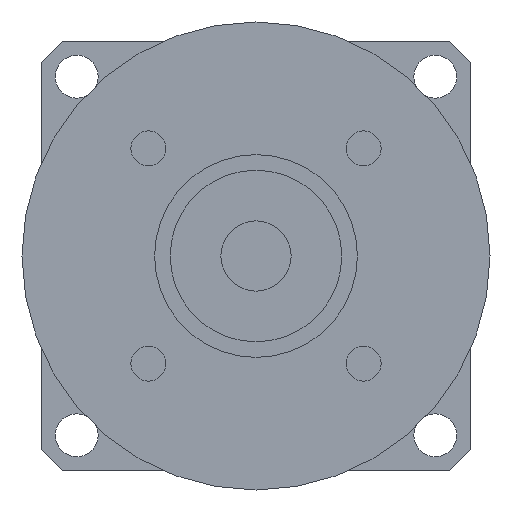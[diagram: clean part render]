
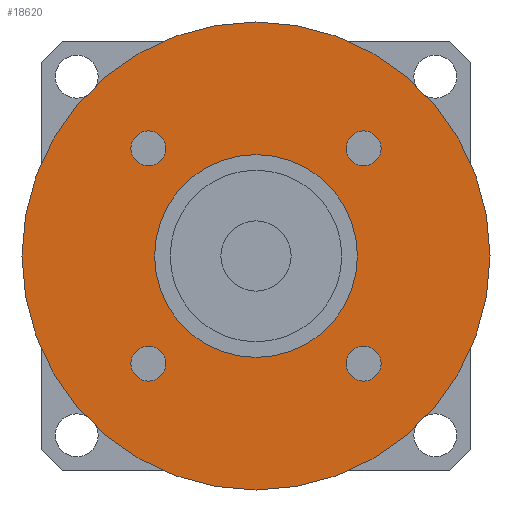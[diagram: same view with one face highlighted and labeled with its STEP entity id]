
A CAD part, left-side view. The second image highlights one B-rep face of the part: STEP entity #18620.
In plain terms, the highlighted planar face has unit normal (-1, 0, 0) as drawn and (0, 0, -1) by its records, which use the part's own axes.
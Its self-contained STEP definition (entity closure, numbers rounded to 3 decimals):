
#11050=CARTESIAN_POINT('',(0.,0.,
-58.));
#11060=DIRECTION('',(0.,0.,1.));
#11070=DIRECTION('',(0.,-1.,0.));
#11080=AXIS2_PLACEMENT_3D('',#11050,#11060,#11070);
#11090=CIRCLE('',#11080,13.);
#11100=CARTESIAN_POINT('',(0.,-13.,-58.));
#11110=VERTEX_POINT('',#11100);
#11120=CARTESIAN_POINT('',(13.,0.,-58.));
#11130=VERTEX_POINT('',#11120);
#11140=EDGE_CURVE('',#11110,#11130,#11090,.T.);
#11370=CARTESIAN_POINT('',(-13.,0.,-58.));
#11380=VERTEX_POINT('',#11370);
#11410=EDGE_CURVE('',#11380,#11110,#11090,.T.);
#12740=CARTESIAN_POINT('',(-11.539,-13.789,-58.));
#12750=VERTEX_POINT('',#12740);
#12830=CARTESIAN_POINT('',(-16.039,-13.789,-58.));
#12840=VERTEX_POINT('',#12830);
#12870=CARTESIAN_POINT('',(-13.789,-13.789,-58.));
#12880=DIRECTION('',(0.,0.,-1.));
#12890=DIRECTION('',(0.,-1.,0.));
#12900=AXIS2_PLACEMENT_3D('',#12870,#12880,#12890);
#12910=CIRCLE('',#12900,2.25);
#12920=CARTESIAN_POINT('',(-13.789,-16.039,-58.));
#12930=VERTEX_POINT('',#12920);
#12940=EDGE_CURVE('',#12930,#12840,#12910,.T.);
#12960=EDGE_CURVE('',#12750,#12930,#12910,.T.);
#17550=CARTESIAN_POINT('',(30.,0.,-58.));
#17560=VERTEX_POINT('',#17550);
#17590=CARTESIAN_POINT('',(0.,0.,
-58.));
#17600=DIRECTION('',(0.,0.,1.));
#17610=DIRECTION('',(0.,-1.,0.));
#17620=AXIS2_PLACEMENT_3D('',#17590,#17600,#17610);
#17630=CIRCLE('',#17620,30.);
#17640=CARTESIAN_POINT('',(0.,-30.,-58.));
#17650=VERTEX_POINT('',#17640);
#17660=EDGE_CURVE('',#17650,#17560,#17630,.T.);
#17680=CARTESIAN_POINT('',(-30.,0.,-58.));
#17690=VERTEX_POINT('',#17680);
#17700=EDGE_CURVE('',#17690,#17650,#17630,.T.);
#17820=CARTESIAN_POINT('',(0.,0.,
-58.));
#17830=DIRECTION('',(0.,0.,1.));
#17840=DIRECTION('',(-1.,0.,0.));
#17850=AXIS2_PLACEMENT_3D('',#17820,#17830,#17840);
#17860=PLANE('',#17850);
#17870=CARTESIAN_POINT('',(13.789,-13.789,-58.));
#17880=DIRECTION('',(0.,0.,-1.));
#17890=DIRECTION('',(1.,0.,0.));
#17900=AXIS2_PLACEMENT_3D('',#17870,#17880,#17890);
#17910=CIRCLE('',#17900,2.25);
#17920=CARTESIAN_POINT('',(16.039,-13.789,-58.));
#17930=VERTEX_POINT('',#17920);
#17940=CARTESIAN_POINT('',(13.789,-16.039,-58.));
#17950=VERTEX_POINT('',#17940);
#17960=EDGE_CURVE('',#17930,#17950,#17910,.T.);
#17970=ORIENTED_EDGE('',*,*,#17960,.F.);
#17980=CARTESIAN_POINT('',(13.789,-11.539,-58.));
#17990=VERTEX_POINT('',#17980);
#18000=EDGE_CURVE('',#17950,#17990,#17910,.T.);
#18010=ORIENTED_EDGE('',*,*,#18000,.F.);
#18020=EDGE_CURVE('',#17990,#17930,#17910,.T.);
#18030=ORIENTED_EDGE('',*,*,#18020,.F.);
#18040=EDGE_LOOP('',(#18030,#18010,#17970));
#18050=FACE_BOUND('',#18040,.T.);
#18060=CARTESIAN_POINT('',(13.789,13.789,-58.));
#18070=DIRECTION('',(0.,0.,-1.));
#18080=DIRECTION('',(0.,1.,0.));
#18090=AXIS2_PLACEMENT_3D('',#18060,#18070,#18080);
#18100=CIRCLE('',#18090,2.25);
#18110=CARTESIAN_POINT('',(13.789,16.039,-58.));
#18120=VERTEX_POINT('',#18110);
#18130=CARTESIAN_POINT('',(16.039,13.789,-58.));
#18140=VERTEX_POINT('',#18130);
#18150=EDGE_CURVE('',#18120,#18140,#18100,.T.);
#18160=ORIENTED_EDGE('',*,*,#18150,.F.);
#18170=CARTESIAN_POINT('',(11.539,13.789,-58.));
#18180=VERTEX_POINT('',#18170);
#18190=EDGE_CURVE('',#18140,#18180,#18100,.T.);
#18200=ORIENTED_EDGE('',*,*,#18190,.F.);
#18210=EDGE_CURVE('',#18180,#18120,#18100,.T.);
#18220=ORIENTED_EDGE('',*,*,#18210,.F.);
#18230=EDGE_LOOP('',(#18220,#18200,#18160));
#18240=FACE_BOUND('',#18230,.T.);
#18250=CARTESIAN_POINT('',(-13.789,13.789,-58.));
#18260=DIRECTION('',(0.,0.,-1.));
#18270=DIRECTION('',(-1.,0.,0.));
#18280=AXIS2_PLACEMENT_3D('',#18250,#18260,#18270);
#18290=CIRCLE('',#18280,2.25);
#18300=CARTESIAN_POINT('',(-16.039,13.789,-58.));
#18310=VERTEX_POINT('',#18300);
#18320=CARTESIAN_POINT('',(-13.789,16.039,-58.));
#18330=VERTEX_POINT('',#18320);
#18340=EDGE_CURVE('',#18310,#18330,#18290,.T.);
#18350=ORIENTED_EDGE('',*,*,#18340,.F.);
#18360=CARTESIAN_POINT('',(-13.789,11.539,-58.));
#18370=VERTEX_POINT('',#18360);
#18380=EDGE_CURVE('',#18330,#18370,#18290,.T.);
#18390=ORIENTED_EDGE('',*,*,#18380,.F.);
#18400=EDGE_CURVE('',#18370,#18310,#18290,.T.);
#18410=ORIENTED_EDGE('',*,*,#18400,.F.);
#18420=EDGE_LOOP('',(#18410,#18390,#18350));
#18430=FACE_BOUND('',#18420,.T.);
#18440=ORIENTED_EDGE('',*,*,#12940,.F.);
#18450=EDGE_CURVE('',#12840,#12750,#12910,.T.);
#18460=ORIENTED_EDGE('',*,*,#18450,.F.);
#18470=ORIENTED_EDGE('',*,*,#12960,.F.);
#18480=EDGE_LOOP('',(#18470,#18460,#18440));
#18490=FACE_BOUND('',#18480,.T.);
#18500=ORIENTED_EDGE('',*,*,#17660,.F.);
#18510=EDGE_CURVE('',#17560,#17690,#17630,.T.);
#18520=ORIENTED_EDGE('',*,*,#18510,.F.);
#18530=ORIENTED_EDGE('',*,*,#17700,.F.);
#18540=EDGE_LOOP('',(#18530,#18520,#18500));
#18550=FACE_OUTER_BOUND('',#18540,.T.);
#18560=EDGE_CURVE('',#11130,#11380,#11090,.T.);
#18570=ORIENTED_EDGE('',*,*,#18560,.T.);
#18580=ORIENTED_EDGE('',*,*,#11140,.T.);
#18590=ORIENTED_EDGE('',*,*,#11410,.T.);
#18600=EDGE_LOOP('',(#18590,#18580,#18570));
#18610=FACE_BOUND('',#18600,.T.);
#18620=ADVANCED_FACE('',(#18050,#18240,#18430,#18490,#18550,#18610),
#17860,.F.);
